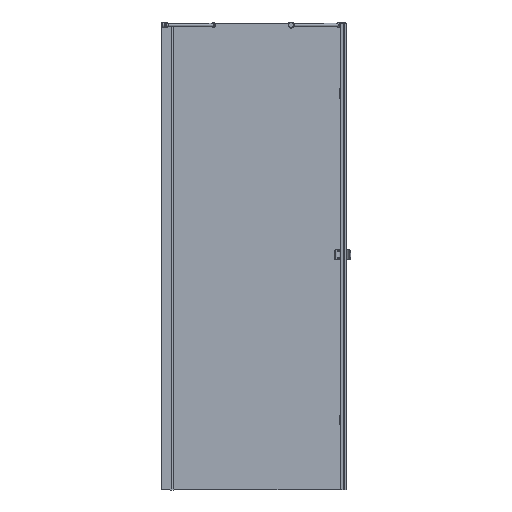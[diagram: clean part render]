
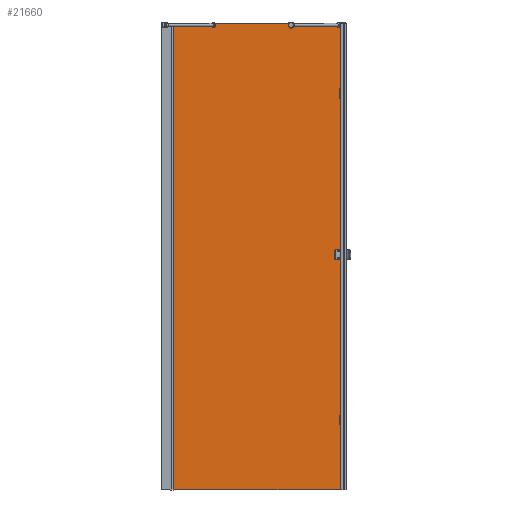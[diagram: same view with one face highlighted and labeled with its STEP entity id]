
A CAD part, left-side view. The second image highlights one B-rep face of the part: STEP entity #21660.
In plain terms, the highlighted planar face has unit normal (-1, 0, 0).
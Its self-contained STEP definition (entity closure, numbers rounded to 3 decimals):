
#804=PLANE($,#23607);
#1187=LINE($,#29797,#2930);
#1237=LINE($,#29980,#2980);
#2806=LINE($,#52401,#4549);
#2827=LINE($,#52467,#4570);
#2829=LINE($,#52471,#4572);
#2831=LINE($,#52475,#4574);
#2832=LINE($,#52476,#4575);
#2930=VECTOR($,#23870,537.423);
#2980=VECTOR($,#24008,162.716);
#4549=VECTOR($,#29061,1995.);
#4570=VECTOR($,#29144,11.);
#4572=VECTOR($,#29148,5.);
#4574=VECTOR($,#29152,2000.);
#4575=VECTOR($,#29153,729.);
#6005=FACE_OUTER_BOUND($,#7315,.T.);
#7315=EDGE_LOOP($,(#19187,#19188,#19189,#19190,#19191,#19192,#19193,#19194));
#7679=CIRCLE($,#21772,10.);
#8559=VERTEX_POINT($,#29748);
#8561=VERTEX_POINT($,#29752);
#8572=VERTEX_POINT($,#29796);
#8661=VERTEX_POINT($,#29978);
#10365=VERTEX_POINT($,#52400);
#10379=VERTEX_POINT($,#52466);
#10380=VERTEX_POINT($,#52470);
#10381=VERTEX_POINT($,#52474);
#10515=EDGE_CURVE($,#8559,#8561,#7679,.T.);
#10535=EDGE_CURVE($,#8572,#8559,#1187,.T.);
#10628=EDGE_CURVE($,#8561,#8661,#1237,.T.);
#13294=EDGE_CURVE($,#10365,#8572,#2806,.T.);
#13327=EDGE_CURVE($,#10379,#10365,#2827,.T.);
#13329=EDGE_CURVE($,#10379,#10380,#2829,.T.);
#13331=EDGE_CURVE($,#8661,#10381,#2831,.T.);
#13332=EDGE_CURVE($,#10380,#10381,#2832,.T.);
#19187=ORIENTED_EDGE($,*,*,#10515,.T.);
#19188=ORIENTED_EDGE($,*,*,#10628,.T.);
#19189=ORIENTED_EDGE($,*,*,#13331,.T.);
#19190=ORIENTED_EDGE($,*,*,#13332,.F.);
#19191=ORIENTED_EDGE($,*,*,#13329,.F.);
#19192=ORIENTED_EDGE($,*,*,#13327,.T.);
#19193=ORIENTED_EDGE($,*,*,#13294,.T.);
#19194=ORIENTED_EDGE($,*,*,#10535,.T.);
#21660=ADVANCED_FACE($,(#6005),#804,.T.);
#21772=AXIS2_PLACEMENT_3D($,#29754,#23821,#23822);
#23607=AXIS2_PLACEMENT_3D($,#52473,#29150,#29151);
#23821=DIRECTION('center_axis',(1.,0.,0.));
#23822=DIRECTION('ref_axis',(0.,-1.,0.));
#23870=DIRECTION($,(0.,1.,0.));
#24008=DIRECTION($,(0.,1.,0.));
#29061=DIRECTION($,(0.,0.,1.));
#29144=DIRECTION($,(0.,1.,0.));
#29148=DIRECTION($,(0.,0.,-1.));
#29150=DIRECTION('center_axis',(-1.,0.,0.));
#29151=DIRECTION('ref_axis',(0.,1.,0.));
#29152=DIRECTION($,(0.,0.,-1.));
#29153=DIRECTION($,(0.,1.,0.));
#29748=CARTESIAN_POINT('',(1366.59,513.379,1485.944));
#29752=CARTESIAN_POINT('',(1366.59,531.24,1485.944));
#29754=CARTESIAN_POINT('Origin',(1366.59,522.309,1481.444));
#29796=CARTESIAN_POINT('',(1366.59,-24.044,1485.944));
#29797=CARTESIAN_POINT($,(1366.59,-35.044,1485.944));
#29978=CARTESIAN_POINT('',(1366.59,693.956,1485.944));
#29980=CARTESIAN_POINT($,(1366.59,-35.044,1485.944));
#52400=CARTESIAN_POINT('',(1366.59,-24.044,-509.056));
#52401=CARTESIAN_POINT($,(1366.59,-24.044,1485.944));
#52466=CARTESIAN_POINT('',(1366.59,-35.044,-509.056));
#52467=CARTESIAN_POINT($,(1366.59,-29.919,-509.056));
#52470=CARTESIAN_POINT('',(1366.59,-35.044,-514.056));
#52471=CARTESIAN_POINT($,(1366.59,-35.044,1485.944));
#52473=CARTESIAN_POINT('Origin',(1366.59,-35.044,1485.944));
#52474=CARTESIAN_POINT('',(1366.59,693.956,-514.056));
#52475=CARTESIAN_POINT($,(1366.59,693.956,1485.944));
#52476=CARTESIAN_POINT($,(1366.59,-35.044,-514.056));
